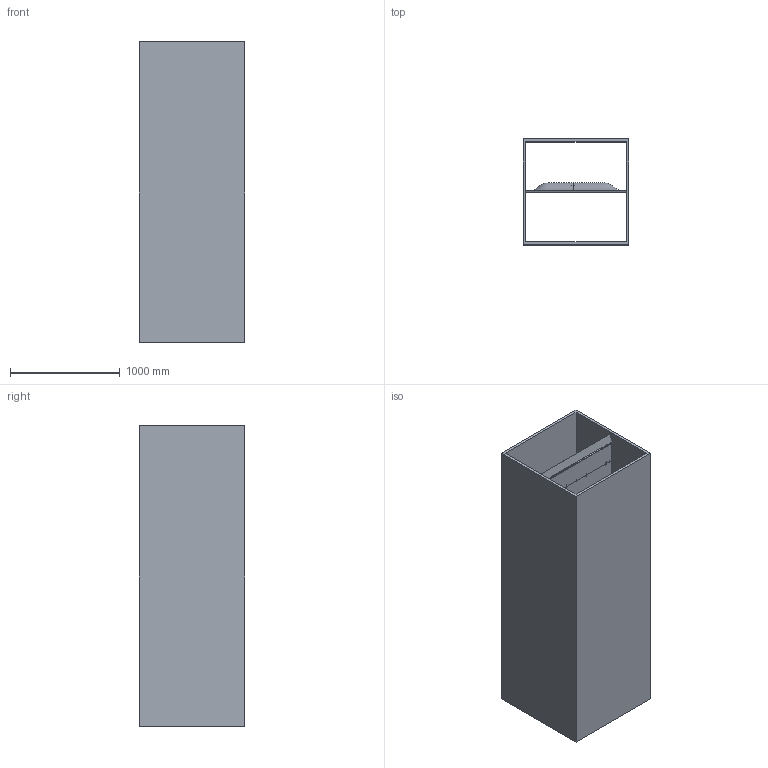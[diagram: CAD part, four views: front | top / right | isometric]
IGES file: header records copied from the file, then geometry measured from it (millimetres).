
Start section: SolidWorks IGES file using analytic representation for surfaces
Global section: file name: C:\Users\patgr\Documents\BoeingSBSE\CADdrawings\BumpModelCAD\CompletedSections\SplitterAssembly_bump36_CFD\SPLITTER_ASSEMBLY_bump36_CFD_iges.IGS; native system: SolidWorks 2020; preprocessor: SolidWorks 2020; author: patgr; date: 220715.142207; units: inch
Bounding box: 965.2 x 965.2 x 2743.2 mm (x, y, z)
Surface area: 31011457.2 mm2 (no closed solid volume)
Topology: 0 solids, 0 shells, 495 faces, 9850 edges, 9850 vertices
Faces by surface type: revolution 271, bspline 224
